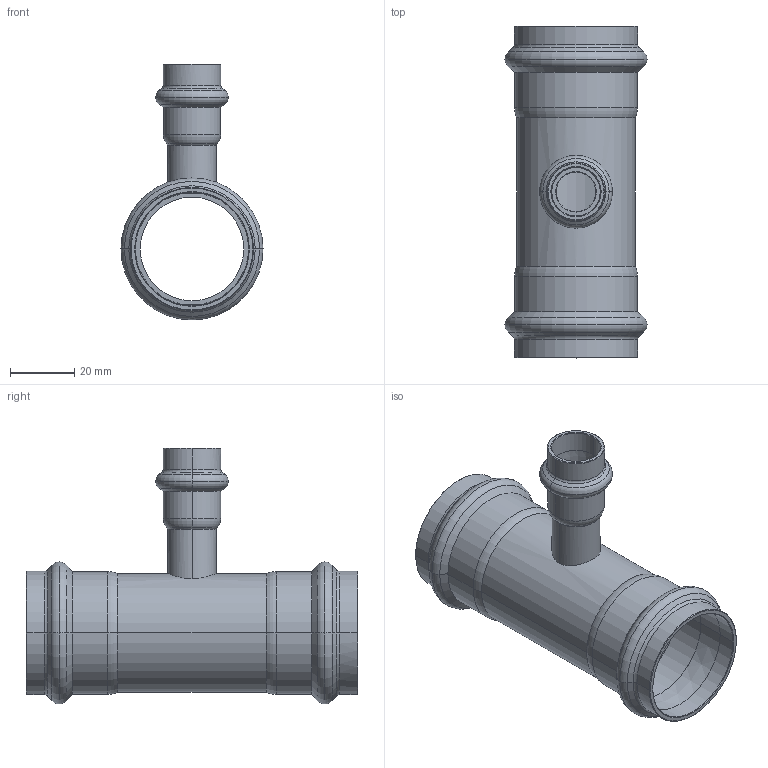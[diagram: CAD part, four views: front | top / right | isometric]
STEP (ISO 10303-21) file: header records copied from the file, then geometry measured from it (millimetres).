
FILE_DESCRIPTION(('CoCreate Modeling STEP Export'),'2;1');
FILE_NAME('8130RVW351535.stp','2013-01-31T14:40:32',(''),(''),'CoCreate Modeling STEP processor for AP214 (Solid Model)','CoCreate Modeling 17.00A 17-Jun-2010 (C) Parametric Technology GmbH','');
FILE_SCHEMA(('AUTOMOTIVE_DESIGN { 1 0 10303 214 1 1 1 1 }'));
Length unit declared in the file: millimetre
Products named in the file (2): 8130RVW351535
Assembly tree (1 placements, depth 2):
  8130RVW351535
    8130RVW351535
Bounding box: 44.3 x 103.51 x 79.84 mm (x, y, z)
Volume: 24975.9 mm3; surface area: 29287.9 mm2
Topology: 1 solids, 1 shells, 130 faces, 275 edges, 155 vertices
Faces by surface type: torus 42, cylinder 40, cone 36, plane 10, bspline 2
Entity records: 4824 total; most frequent: CARTESIAN_POINT 2441, ORIENTED_EDGE 550, DIRECTION 432, EDGE_CURVE 275, AXIS2_PLACEMENT_3D 178, VERTEX_POINT 155, EDGE_LOOP 142, FACE_OUTER_BOUND 130
